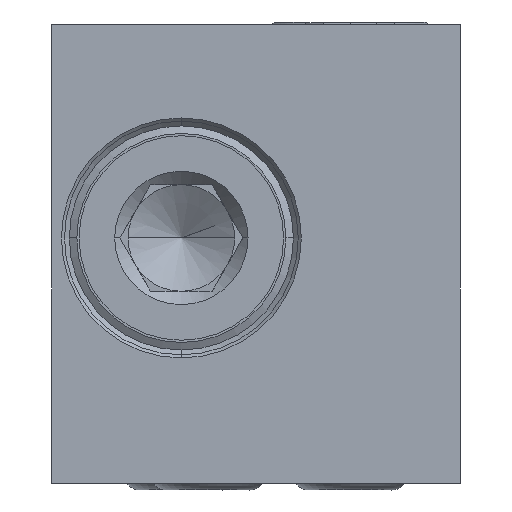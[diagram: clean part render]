
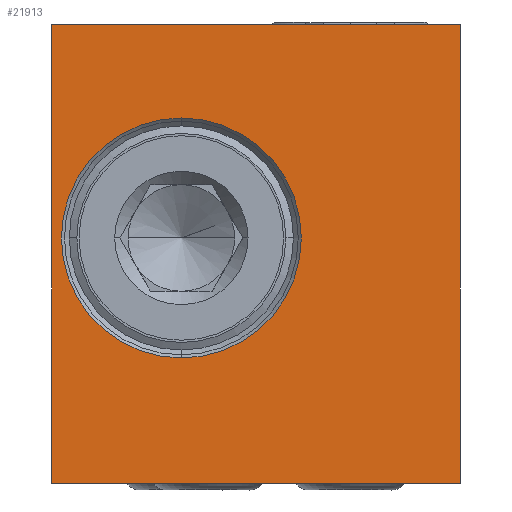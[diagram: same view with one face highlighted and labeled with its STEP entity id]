
A CAD part, left-side view. The second image highlights one B-rep face of the part: STEP entity #21913.
In plain terms, the highlighted planar face has unit normal (-1, 0, 0).
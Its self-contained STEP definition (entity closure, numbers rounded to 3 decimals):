
#4037=DIRECTION('',(0.,0.,1.));
#4038=VECTOR('',#4037,25.8);
#4039=CARTESIAN_POINT('',(-38.,11.5,-12.9));
#4040=LINE('',#4039,#4038);
#4041=DIRECTION('',(0.,-1.,0.));
#4042=VECTOR('',#4041,23.);
#4043=CARTESIAN_POINT('',(-38.,11.5,12.9));
#4044=LINE('',#4043,#4042);
#4045=DIRECTION('',(0.,0.,-1.));
#4046=VECTOR('',#4045,25.8);
#4047=CARTESIAN_POINT('',(-38.,-11.5,12.9));
#4048=LINE('',#4047,#4046);
#4049=DIRECTION('',(0.,1.,0.));
#4050=VECTOR('',#4049,23.);
#4051=CARTESIAN_POINT('',(-38.,-11.5,-12.9));
#4052=LINE('',#4051,#4050);
#4053=CARTESIAN_POINT('',(-38.,4.2,0.9));
#4054=DIRECTION('',(-1.,0.,0.));
#4055=DIRECTION('',(0.,0.,-1.));
#4056=AXIS2_PLACEMENT_3D('',#4053,#4054,#4055);
#4058=CARTESIAN_POINT('',(-38.,4.2,0.9));
#4059=DIRECTION('',(-1.,0.,0.));
#4060=DIRECTION('',(0.,0.,1.));
#4061=AXIS2_PLACEMENT_3D('',#4058,#4059,#4060);
#15019=CARTESIAN_POINT('',(-38.,11.5,12.9));
#15020=VERTEX_POINT('',#15019);
#15021=CARTESIAN_POINT('',(-38.,11.5,-12.9));
#15022=VERTEX_POINT('',#15021);
#15023=CARTESIAN_POINT('',(-38.,-11.5,12.9));
#15024=VERTEX_POINT('',#15023);
#15045=CARTESIAN_POINT('',(-38.,-11.5,-12.9));
#15046=VERTEX_POINT('',#15045);
#15091=CARTESIAN_POINT('',(-38.,4.2,-5.85));
#15092=CARTESIAN_POINT('',(-38.,4.2,7.65));
#15093=VERTEX_POINT('',#15091);
#15094=VERTEX_POINT('',#15092);
#21894=CARTESIAN_POINT('',(-38.,0.,0.));
#21895=DIRECTION('',(-1.,0.,0.));
#21896=DIRECTION('',(0.,-1.,0.));
#21897=AXIS2_PLACEMENT_3D('',#21894,#21895,#21896);
#21898=PLANE('',#21897);
#21899=ORIENTED_EDGE('',*,*,#21887,.T.);
#21900=ORIENTED_EDGE('',*,*,#19681,.T.);
#21902=ORIENTED_EDGE('',*,*,#21901,.T.);
#21904=ORIENTED_EDGE('',*,*,#21903,.T.);
#21905=EDGE_LOOP('',(#21899,#21900,#21902,#21904));
#21906=FACE_OUTER_BOUND('',#21905,.F.);
#21908=ORIENTED_EDGE('',*,*,#21907,.T.);
#21910=ORIENTED_EDGE('',*,*,#21909,.T.);
#21911=EDGE_LOOP('',(#21908,#21910));
#21912=FACE_BOUND('',#21911,.F.);
#21913=ADVANCED_FACE('',(#21906,#21912),#21898,.T.);
#4057=CIRCLE('',#4056,6.75);
#4062=CIRCLE('',#4061,6.75);
#19681=EDGE_CURVE('',#15020,#15024,#4044,.T.);
#21887=EDGE_CURVE('',#15022,#15020,#4040,.T.);
#21901=EDGE_CURVE('',#15024,#15046,#4048,.T.);
#21903=EDGE_CURVE('',#15046,#15022,#4052,.T.);
#21907=EDGE_CURVE('',#15093,#15094,#4057,.T.);
#21909=EDGE_CURVE('',#15094,#15093,#4062,.T.);
